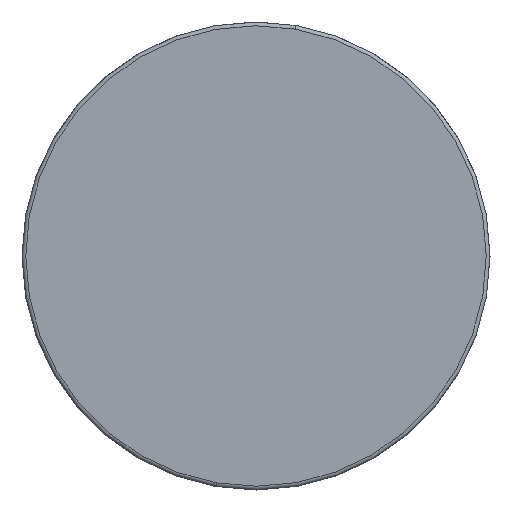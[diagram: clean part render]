
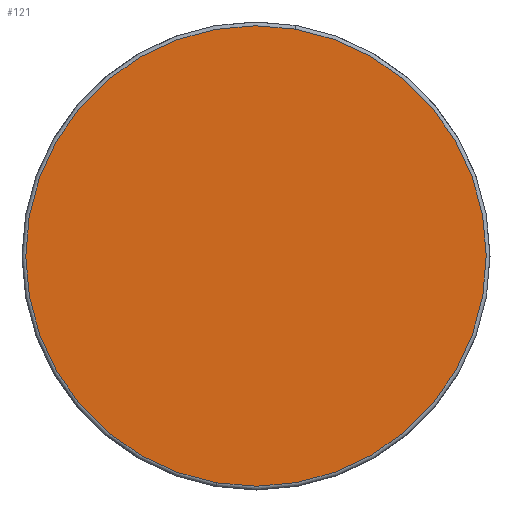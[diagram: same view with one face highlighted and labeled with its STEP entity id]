
A CAD part, front view. The second image highlights one B-rep face of the part: STEP entity #121.
In plain terms, the highlighted planar face has unit normal (0, -1, 0) as drawn and (-1, 0, 0) by its records, which use the part's own axes.
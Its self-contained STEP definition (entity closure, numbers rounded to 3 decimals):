
#100 = EDGE_CURVE ( 'NONE', #4229, #3847, #3326, .T. ) ;
#121 = ADVANCED_FACE ( 'NONE', ( #1509 ), #3394, .F. ) ;
#354 = DIRECTION ( 'NONE',  ( 0., 0., -1. ) ) ;
#781 = DIRECTION ( 'NONE',  ( -1., 0., 0. ) ) ;
#803 = DIRECTION ( 'NONE',  ( 1., 0., 0. ) ) ;
#816 = CIRCLE ( 'NONE', #2900, 30.5 ) ;
#841 = AXIS2_PLACEMENT_3D ( 'NONE', #3841, #803, #2637 ) ;
#1084 = AXIS2_PLACEMENT_3D ( 'NONE', #4180, #781, #354 ) ;
#1509 = FACE_OUTER_BOUND ( 'NONE', #1664, .T. ) ;
#1664 = EDGE_LOOP ( 'NONE', ( #4202, #3851 ) ) ;
#1726 = CARTESIAN_POINT ( 'NONE',  ( 0., 0., 30.5 ) ) ;
#1767 = DIRECTION ( 'NONE',  ( 0., 0., -1. ) ) ;
#1827 = EDGE_CURVE ( 'NONE', #3847, #4229, #816, .T. ) ;
#2152 = DIRECTION ( 'NONE',  ( -1., 0., 0. ) ) ;
#2637 = DIRECTION ( 'NONE',  ( 0., 0., -1. ) ) ;
#2900 = AXIS2_PLACEMENT_3D ( 'NONE', #4087, #2152, #1767 ) ;
#3326 = CIRCLE ( 'NONE', #1084, 30.5 ) ;
#3394 = PLANE ( 'NONE',  #841 ) ;
#3624 = CARTESIAN_POINT ( 'NONE',  ( 0., 0., -30.5 ) ) ;
#3841 = CARTESIAN_POINT ( 'NONE',  ( 0., 0., 0. ) ) ;
#3847 = VERTEX_POINT ( 'NONE', #1726 ) ;
#3851 = ORIENTED_EDGE ( 'NONE', *, *, #1827, .T. ) ;
#4087 = CARTESIAN_POINT ( 'NONE',  ( 0., 0., 0. ) ) ;
#4180 = CARTESIAN_POINT ( 'NONE',  ( 0., 0., 0. ) ) ;
#4202 = ORIENTED_EDGE ( 'NONE', *, *, #100, .T. ) ;
#4229 = VERTEX_POINT ( 'NONE', #3624 ) ;
